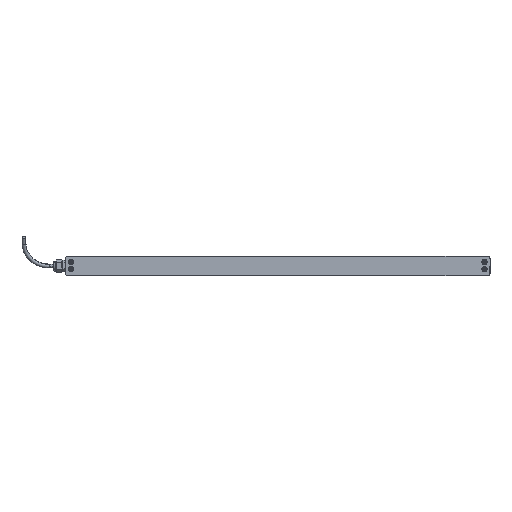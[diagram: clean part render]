
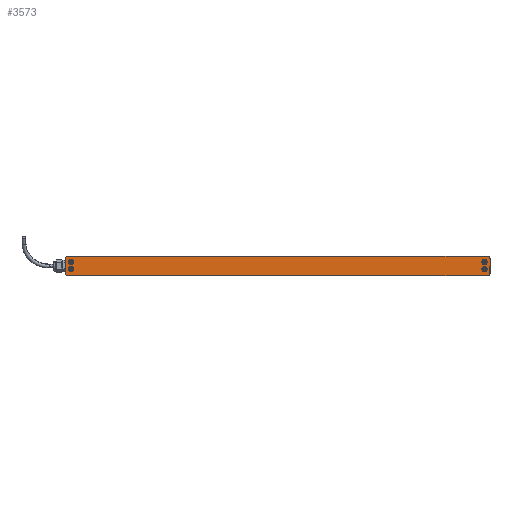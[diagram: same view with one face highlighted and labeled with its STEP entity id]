
A CAD part, left-side view. The second image highlights one B-rep face of the part: STEP entity #3573.
In plain terms, the highlighted planar face has unit normal (-1, 0, 0) as drawn and (0, 0, -1) by its records, which use the part's own axes.
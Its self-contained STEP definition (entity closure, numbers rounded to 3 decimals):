
#110 = AXIS2_PLACEMENT_3D ( 'NONE', #9289, #10686, #14332 ) ;
#120 = ORIENTED_EDGE ( 'NONE', *, *, #10483, .F. ) ;
#251 = VERTEX_POINT ( 'NONE', #15984 ) ;
#436 = VERTEX_POINT ( 'NONE', #7939 ) ;
#596 = VERTEX_POINT ( 'NONE', #12037 ) ;
#1039 = CARTESIAN_POINT ( 'NONE',  ( 443., 16., 0. ) ) ;
#1127 = CIRCLE ( 'NONE', #10399, 5.6 ) ;
#1168 = EDGE_CURVE ( 'NONE', #14125, #596, #7938, .T. ) ;
#1341 = CARTESIAN_POINT ( 'NONE',  ( 443., -16., 0. ) ) ;
#1400 = CIRCLE ( 'NONE', #2186, 5.6 ) ;
#1430 = CIRCLE ( 'NONE', #110, 4. ) ;
#1492 = FACE_OUTER_BOUND ( 'NONE', #14894, .T. ) ;
#1664 = EDGE_CURVE ( 'NONE', #6694, #12740, #15712, .T. ) ;
#1815 = ORIENTED_EDGE ( 'NONE', *, *, #1664, .F. ) ;
#1818 = VERTEX_POINT ( 'NONE', #11458 ) ;
#1819 = FACE_BOUND ( 'NONE', #11485, .T. ) ;
#1989 = CARTESIAN_POINT ( 'NONE',  ( -443., -16., 0. ) ) ;
#2178 = VECTOR ( 'NONE', #12974, 1000. ) ;
#2186 = AXIS2_PLACEMENT_3D ( 'NONE', #16200, #7675, #8920 ) ;
#2285 = DIRECTION ( 'NONE',  ( 0., 0., 1. ) ) ;
#2478 = ORIENTED_EDGE ( 'NONE', *, *, #15841, .F. ) ;
#2653 = VERTEX_POINT ( 'NONE', #16165 ) ;
#2728 = DIRECTION ( 'NONE',  ( 0., 0., 1. ) ) ;
#2738 = EDGE_CURVE ( 'NONE', #16320, #14125, #3241, .T. ) ;
#2822 = ORIENTED_EDGE ( 'NONE', *, *, #1168, .F. ) ;
#2964 = VERTEX_POINT ( 'NONE', #12747 ) ;
#3098 = EDGE_CURVE ( 'NONE', #1818, #7213, #15587, .T. ) ;
#3105 = AXIS2_PLACEMENT_3D ( 'NONE', #7287, #2285, #13321 ) ;
#3241 = CIRCLE ( 'NONE', #10108, 4. ) ;
#3573 = ADVANCED_FACE ( 'NONE', ( #9286, #14168, #6639, #1819, #1492 ), #15577, .T. ) ;
#3601 = VERTEX_POINT ( 'NONE', #4029 ) ;
#3626 = DIRECTION ( 'NONE',  ( 0., 1., 0. ) ) ;
#3762 = ORIENTED_EDGE ( 'NONE', *, *, #10725, .F. ) ;
#3945 = CIRCLE ( 'NONE', #5008, 5.6 ) ;
#4029 = CARTESIAN_POINT ( 'NONE',  ( 436.9, 8.5, 0. ) ) ;
#4037 = CARTESIAN_POINT ( 'NONE',  ( -431.3, -6.3, 0. ) ) ;
#4203 = ORIENTED_EDGE ( 'NONE', *, *, #3098, .F. ) ;
#4210 = CIRCLE ( 'NONE', #8684, 5.6 ) ;
#4418 = AXIS2_PLACEMENT_3D ( 'NONE', #10182, #8953, #11257 ) ;
#4453 = CARTESIAN_POINT ( 'NONE',  ( 431.3, -6.3, 0. ) ) ;
#4596 = AXIS2_PLACEMENT_3D ( 'NONE', #4453, #9515, #11717 ) ;
#4678 = CIRCLE ( 'NONE', #6001, 4. ) ;
#4761 = VERTEX_POINT ( 'NONE', #13116 ) ;
#4987 = CARTESIAN_POINT ( 'NONE',  ( -439., -16., 0. ) ) ;
#5008 = AXIS2_PLACEMENT_3D ( 'NONE', #12669, #5173, #15422 ) ;
#5117 = ORIENTED_EDGE ( 'NONE', *, *, #13336, .F. ) ;
#5173 = DIRECTION ( 'NONE',  ( 0., 0., -1. ) ) ;
#5307 = VERTEX_POINT ( 'NONE', #9607 ) ;
#5388 = VECTOR ( 'NONE', #6903, 1000. ) ;
#5862 = VERTEX_POINT ( 'NONE', #12539 ) ;
#5944 = EDGE_CURVE ( 'NONE', #5862, #3601, #14712, .T. ) ;
#6001 = AXIS2_PLACEMENT_3D ( 'NONE', #4987, #2728, #6298 ) ;
#6020 = CIRCLE ( 'NONE', #10764, 5.6 ) ;
#6025 = EDGE_CURVE ( 'NONE', #7213, #251, #4678, .T. ) ;
#6210 = EDGE_CURVE ( 'NONE', #596, #1818, #15807, .T. ) ;
#6298 = DIRECTION ( 'NONE',  ( -1., 0., 0. ) ) ;
#6356 = ORIENTED_EDGE ( 'NONE', *, *, #14508, .F. ) ;
#6399 = DIRECTION ( 'NONE',  ( -1., 0., 0. ) ) ;
#6513 = DIRECTION ( 'NONE',  ( 1., 0., 0. ) ) ;
#6639 = FACE_BOUND ( 'NONE', #15763, .T. ) ;
#6694 = VERTEX_POINT ( 'NONE', #11386 ) ;
#6769 = LINE ( 'NONE', #9165, #13096 ) ;
#6862 = EDGE_CURVE ( 'NONE', #251, #5307, #6769, .T. ) ;
#6903 = DIRECTION ( 'NONE',  ( 0., -1., 0. ) ) ;
#7153 = CARTESIAN_POINT ( 'NONE',  ( -431.3, 8.5, 0. ) ) ;
#7198 = ORIENTED_EDGE ( 'NONE', *, *, #6025, .F. ) ;
#7213 = VERTEX_POINT ( 'NONE', #1989 ) ;
#7287 = CARTESIAN_POINT ( 'NONE',  ( -439., 16., 0. ) ) ;
#7376 = DIRECTION ( 'NONE',  ( 0., 0., -1. ) ) ;
#7515 = AXIS2_PLACEMENT_3D ( 'NONE', #4037, #9089, #7840 ) ;
#7675 = DIRECTION ( 'NONE',  ( 0., 0., -1. ) ) ;
#7840 = DIRECTION ( 'NONE',  ( -1., 0., 0. ) ) ;
#7938 = LINE ( 'NONE', #12894, #2178 ) ;
#7939 = CARTESIAN_POINT ( 'NONE',  ( -425.7, 8.5, 0. ) ) ;
#8354 = VECTOR ( 'NONE', #3626, 1000. ) ;
#8619 = ORIENTED_EDGE ( 'NONE', *, *, #12935, .F. ) ;
#8684 = AXIS2_PLACEMENT_3D ( 'NONE', #7153, #7376, #16292 ) ;
#8860 = EDGE_CURVE ( 'NONE', #12740, #6694, #6020, .T. ) ;
#8863 = DIRECTION ( 'NONE',  ( 0., 0., -1. ) ) ;
#8920 = DIRECTION ( 'NONE',  ( -1., 0., 0. ) ) ;
#8953 = DIRECTION ( 'NONE',  ( 0., 0., -1. ) ) ;
#9089 = DIRECTION ( 'NONE',  ( 0., 0., -1. ) ) ;
#9165 = CARTESIAN_POINT ( 'NONE',  ( -439., -20., 0. ) ) ;
#9262 = ORIENTED_EDGE ( 'NONE', *, *, #5944, .F. ) ;
#9286 = FACE_BOUND ( 'NONE', #10573, .T. ) ;
#9289 = CARTESIAN_POINT ( 'NONE',  ( 439., -16., 0. ) ) ;
#9363 = AXIS2_PLACEMENT_3D ( 'NONE', #14329, #10683, #12985 ) ;
#9515 = DIRECTION ( 'NONE',  ( 0., 0., -1. ) ) ;
#9607 = CARTESIAN_POINT ( 'NONE',  ( 439., -20., 0. ) ) ;
#9646 = CIRCLE ( 'NONE', #7515, 5.6 ) ;
#10108 = AXIS2_PLACEMENT_3D ( 'NONE', #11937, #10559, #12942 ) ;
#10182 = CARTESIAN_POINT ( 'NONE',  ( 431.3, 8.5, 0. ) ) ;
#10262 = DIRECTION ( 'NONE',  ( -1., 0., 0. ) ) ;
#10370 = CARTESIAN_POINT ( 'NONE',  ( 431.3, -6.3, 0. ) ) ;
#10399 = AXIS2_PLACEMENT_3D ( 'NONE', #15058, #8863, #10262 ) ;
#10483 = EDGE_CURVE ( 'NONE', #2653, #2964, #3945, .T. ) ;
#10559 = DIRECTION ( 'NONE',  ( 0., 0., 1. ) ) ;
#10573 = EDGE_LOOP ( 'NONE', ( #9262, #8619 ) ) ;
#10683 = DIRECTION ( 'NONE',  ( 0., 0., -1. ) ) ;
#10686 = DIRECTION ( 'NONE',  ( 0., 0., 1. ) ) ;
#10725 = EDGE_CURVE ( 'NONE', #4761, #436, #4210, .T. ) ;
#10764 = AXIS2_PLACEMENT_3D ( 'NONE', #10370, #15343, #6399 ) ;
#11257 = DIRECTION ( 'NONE',  ( -1., 0., 0. ) ) ;
#11386 = CARTESIAN_POINT ( 'NONE',  ( 425.7, -6.3, 0. ) ) ;
#11458 = CARTESIAN_POINT ( 'NONE',  ( -443., 16., 0. ) ) ;
#11485 = EDGE_LOOP ( 'NONE', ( #5117, #120 ) ) ;
#11717 = DIRECTION ( 'NONE',  ( -1., 0., 0. ) ) ;
#11856 = EDGE_CURVE ( 'NONE', #15074, #16320, #16179, .T. ) ;
#11937 = CARTESIAN_POINT ( 'NONE',  ( 439., 16., 0. ) ) ;
#12037 = CARTESIAN_POINT ( 'NONE',  ( -439., 20., 0. ) ) ;
#12539 = CARTESIAN_POINT ( 'NONE',  ( 425.7, 8.5, 0. ) ) ;
#12669 = CARTESIAN_POINT ( 'NONE',  ( -431.3, -6.3, 0. ) ) ;
#12740 = VERTEX_POINT ( 'NONE', #14529 ) ;
#12747 = CARTESIAN_POINT ( 'NONE',  ( -436.9, -6.3, 0. ) ) ;
#12894 = CARTESIAN_POINT ( 'NONE',  ( -439., 20., 0. ) ) ;
#12935 = EDGE_CURVE ( 'NONE', #3601, #5862, #1127, .T. ) ;
#12942 = DIRECTION ( 'NONE',  ( -1., 0., 0. ) ) ;
#12974 = DIRECTION ( 'NONE',  ( -1., 0., 0. ) ) ;
#12985 = DIRECTION ( 'NONE',  ( -1., 0., 0. ) ) ;
#13096 = VECTOR ( 'NONE', #6513, 1000. ) ;
#13103 = ORIENTED_EDGE ( 'NONE', *, *, #2738, .F. ) ;
#13116 = CARTESIAN_POINT ( 'NONE',  ( -436.9, 8.5, 0. ) ) ;
#13321 = DIRECTION ( 'NONE',  ( -1., 0., 0. ) ) ;
#13336 = EDGE_CURVE ( 'NONE', #2964, #2653, #9646, .T. ) ;
#13583 = ORIENTED_EDGE ( 'NONE', *, *, #6210, .F. ) ;
#13768 = ORIENTED_EDGE ( 'NONE', *, *, #11856, .F. ) ;
#14125 = VERTEX_POINT ( 'NONE', #14904 ) ;
#14168 = FACE_BOUND ( 'NONE', #16303, .T. ) ;
#14182 = CARTESIAN_POINT ( 'NONE',  ( -443., -16., 0. ) ) ;
#14329 = CARTESIAN_POINT ( 'NONE',  ( 439., 16., 0. ) ) ;
#14332 = DIRECTION ( 'NONE',  ( 1., 0., 0. ) ) ;
#14508 = EDGE_CURVE ( 'NONE', #436, #4761, #1400, .T. ) ;
#14529 = CARTESIAN_POINT ( 'NONE',  ( 436.9, -6.3, 0. ) ) ;
#14712 = CIRCLE ( 'NONE', #4418, 5.6 ) ;
#14894 = EDGE_LOOP ( 'NONE', ( #13103, #13768, #2478, #16327, #7198, #4203, #13583, #2822 ) ) ;
#14904 = CARTESIAN_POINT ( 'NONE',  ( 439., 20., 0. ) ) ;
#14944 = CARTESIAN_POINT ( 'NONE',  ( 443., -16., 0. ) ) ;
#15058 = CARTESIAN_POINT ( 'NONE',  ( 431.3, 8.5, 0. ) ) ;
#15074 = VERTEX_POINT ( 'NONE', #1341 ) ;
#15343 = DIRECTION ( 'NONE',  ( 0., 0., -1. ) ) ;
#15422 = DIRECTION ( 'NONE',  ( -1., 0., 0. ) ) ;
#15577 = PLANE ( 'NONE',  #9363 ) ;
#15587 = LINE ( 'NONE', #14182, #5388 ) ;
#15712 = CIRCLE ( 'NONE', #4596, 5.6 ) ;
#15763 = EDGE_LOOP ( 'NONE', ( #3762, #6356 ) ) ;
#15807 = CIRCLE ( 'NONE', #3105, 4. ) ;
#15841 = EDGE_CURVE ( 'NONE', #5307, #15074, #1430, .T. ) ;
#15962 = ORIENTED_EDGE ( 'NONE', *, *, #8860, .F. ) ;
#15984 = CARTESIAN_POINT ( 'NONE',  ( -439., -20., 0. ) ) ;
#16165 = CARTESIAN_POINT ( 'NONE',  ( -425.7, -6.3, 0. ) ) ;
#16179 = LINE ( 'NONE', #14944, #8354 ) ;
#16200 = CARTESIAN_POINT ( 'NONE',  ( -431.3, 8.5, 0. ) ) ;
#16292 = DIRECTION ( 'NONE',  ( -1., 0., 0. ) ) ;
#16303 = EDGE_LOOP ( 'NONE', ( #1815, #15962 ) ) ;
#16320 = VERTEX_POINT ( 'NONE', #1039 ) ;
#16327 = ORIENTED_EDGE ( 'NONE', *, *, #6862, .F. ) ;
